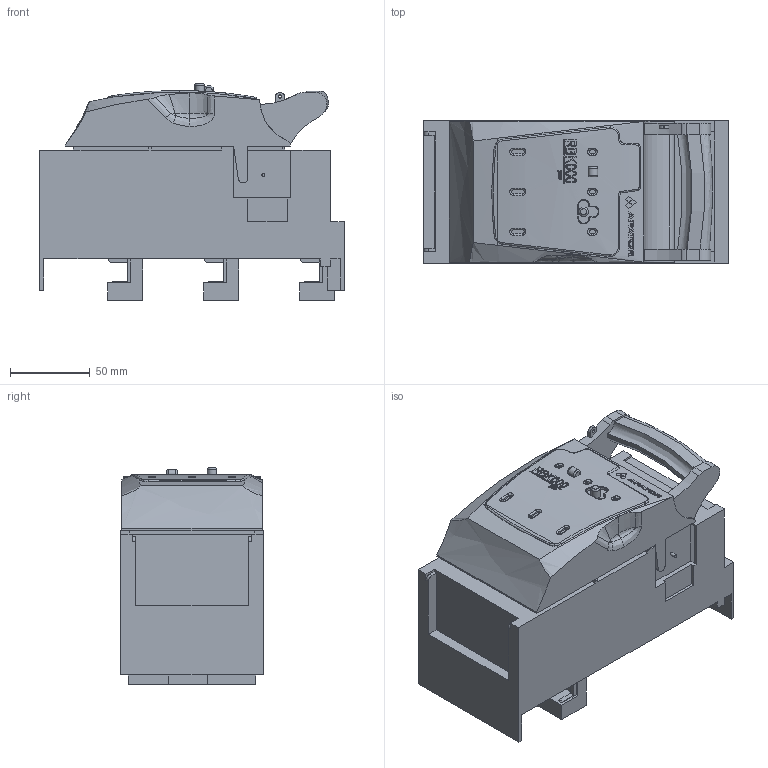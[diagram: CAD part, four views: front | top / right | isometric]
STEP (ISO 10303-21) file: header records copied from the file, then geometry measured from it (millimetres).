
FILE_DESCRIPTION(/* description */ (''),/* implementation_level */ '2;1');
FILE_NAME(/* name */ 'RBK 000 pro-SG - 63-823234-011.stp',/* time_stamp */ '2019-03-13T09:09:34+01:00',/* author */ (''),/* organization */ (''),/* preprocessor_version */ 'ST-DEVELOPER v16',/* originating_system */ 'SIEMENS PLM Software NX 10.0',/* authorisation */ '');
FILE_SCHEMA (('AUTOMOTIVE_DESIGN { 1 0 10303 214 3 1 1 1 }'));
Products named in the file (1): 710_09740238aln5
Bounding box: 190.5 x 89 x 135.5 mm (x, y, z)
Volume: 1371427.4 mm3; surface area: 143070.3 mm2
Topology: 1 solids, 1 shells, 1279 faces, 3623 edges, 2383 vertices
Faces by surface type: plane 1006, cylinder 101, extrusion 100, bspline 54, torus 18
Full cylindrical faces by diameter (mm): 1.9 x2, 2 x1, 5.8 x2, 5.86 x1, 8.5 x3
Entity records: 55857 total; most frequent: CARTESIAN_POINT 16333, ORIENTED_EDGE 7216, DIRECTION 5855, EDGE_CURVE 3608, VERTEX_POINT 2380, AXIS2_PLACEMENT_3D 1975, VECTOR 1905, LINE 1805
